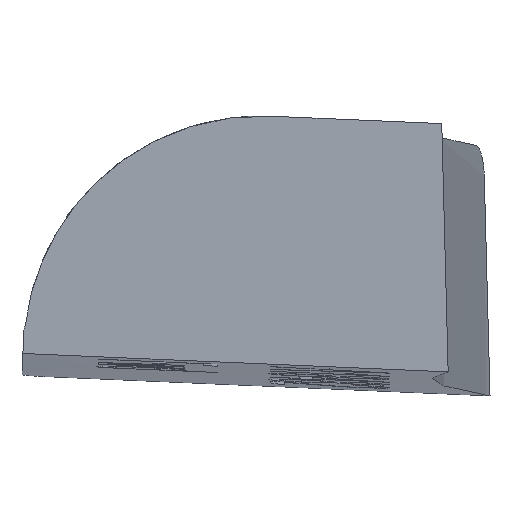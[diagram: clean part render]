
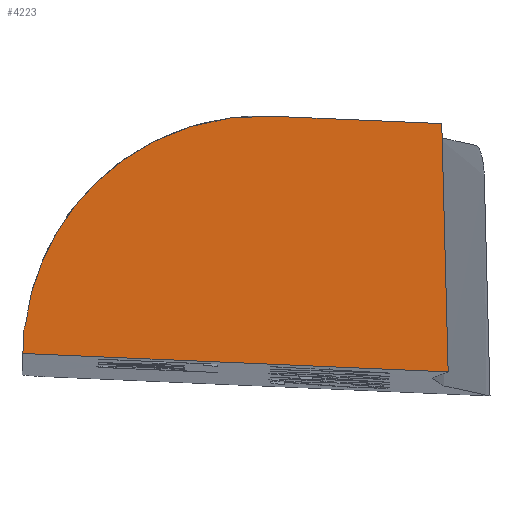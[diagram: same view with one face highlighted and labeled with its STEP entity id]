
A CAD part, front view. The second image highlights one B-rep face of the part: STEP entity #4223.
In plain terms, the highlighted planar face has unit normal (0, -1, 0).
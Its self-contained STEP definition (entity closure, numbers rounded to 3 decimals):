
#15=ELLIPSE('',#4317,38662.053,31.1);
#106=PLANE('',#4319);
#338=FACE_OUTER_BOUND('',#578,.T.);
#578=EDGE_LOOP('',(#3826,#3827,#3828,#3829,#3830,#3831,#3832,#3833));
#760=LINE('',#12759,#942);
#942=VECTOR('',#4659,10.);
#1339=B_SPLINE_CURVE_WITH_KNOTS('',3,(#11585,#11586,#11587,#11588,#11589,
#11590,#11591),.UNSPECIFIED.,.F.,.F.,(4,3,4),(-0.538,-0.485,
-0.415),.UNSPECIFIED.);
#1361=B_SPLINE_CURVE_WITH_KNOTS('',3,(#12014,#12015,#12016,#12017,#12018),
 .UNSPECIFIED.,.F.,.F.,(4,1,4),(0.,0.409,0.953),
 .UNSPECIFIED.);
#1362=B_SPLINE_CURVE_WITH_KNOTS('',3,(#12029,#12030,#12031,#12032),
 .UNSPECIFIED.,.F.,.F.,(4,4),(0.247,0.315),
 .UNSPECIFIED.);
#1398=B_SPLINE_CURVE_WITH_KNOTS('',3,(#12604,#12605,#12606,#12607,#12608,
#12609,#12610,#12611,#12612,#12613),.UNSPECIFIED.,.F.,.F.,(4,3,3,4),(0.,
0.004,0.006,0.009),
 .UNSPECIFIED.);
#1403=B_SPLINE_CURVE_WITH_KNOTS('',3,(#12721,#12722,#12723,#12724,#12725,
#12726,#12727,#12728,#12729,#12730,#12731,#12732,#12733),.UNSPECIFIED.,
 .F.,.F.,(4,3,3,3,4),(-0.474,-0.236,-0.198,
-0.197,-0.042),.UNSPECIFIED.);
#1411=B_SPLINE_CURVE_WITH_KNOTS('',3,(#12893,#12894,#12895,#12896,#12897,
#12898),.UNSPECIFIED.,.F.,.F.,(4,2,4),(-0.19,-0.098,
0.),.UNSPECIFIED.);
#1795=VERTEX_POINT('',#11570);
#1796=VERTEX_POINT('',#11584);
#1813=VERTEX_POINT('',#12008);
#1814=VERTEX_POINT('',#12013);
#1815=VERTEX_POINT('',#12028);
#1847=VERTEX_POINT('',#12599);
#1849=VERTEX_POINT('',#12720);
#1850=VERTEX_POINT('',#12779);
#2421=EDGE_CURVE('',#1795,#1796,#1339,.T.);
#2446=EDGE_CURVE('',#1813,#1814,#1361,.F.);
#2448=EDGE_CURVE('',#1815,#1814,#1362,.T.);
#2495=EDGE_CURVE('',#1847,#1813,#1398,.T.);
#2501=EDGE_CURVE('',#1796,#1849,#1403,.T.);
#2503=EDGE_CURVE('',#1849,#1847,#760,.F.);
#2506=EDGE_CURVE('',#1850,#1795,#15,.T.);
#2511=EDGE_CURVE('',#1850,#1815,#1411,.T.);
#3826=ORIENTED_EDGE('',*,*,#2511,.T.);
#3827=ORIENTED_EDGE('',*,*,#2448,.T.);
#3828=ORIENTED_EDGE('',*,*,#2446,.F.);
#3829=ORIENTED_EDGE('',*,*,#2495,.F.);
#3830=ORIENTED_EDGE('',*,*,#2503,.F.);
#3831=ORIENTED_EDGE('',*,*,#2501,.F.);
#3832=ORIENTED_EDGE('',*,*,#2421,.F.);
#3833=ORIENTED_EDGE('',*,*,#2506,.F.);
#4223=ADVANCED_FACE('',(#338),#106,.T.);
#4317=AXIS2_PLACEMENT_3D('',#12786,#4662,#4663);
#4319=AXIS2_PLACEMENT_3D('',#12899,#4666,#4667);
#4659=DIRECTION('',(-0.043,0.,-0.999));
#4662=DIRECTION('center_axis',(0.,-1.,0.));
#4663=DIRECTION('ref_axis',(-0.026,0.,1.));
#4666=DIRECTION('center_axis',(0.,-1.,0.));
#4667=DIRECTION('ref_axis',(0.043,0.,0.999));
#11570=CARTESIAN_POINT('',(-287.021,51.551,24.307));
#11584=CARTESIAN_POINT('',(-289.028,51.551,24.394));
#11585=CARTESIAN_POINT('Ctrl Pts',(-287.021,51.551,24.307));
#11586=CARTESIAN_POINT('Ctrl Pts',(-287.323,51.551,24.32));
#11587=CARTESIAN_POINT('Ctrl Pts',(-287.615,51.551,24.333));
#11588=CARTESIAN_POINT('Ctrl Pts',(-287.899,51.551,24.345));
#11589=CARTESIAN_POINT('Ctrl Pts',(-288.273,51.551,24.361));
#11590=CARTESIAN_POINT('Ctrl Pts',(-288.65,51.551,24.377));
#11591=CARTESIAN_POINT('Ctrl Pts',(-289.028,51.551,24.394));
#12008=CARTESIAN_POINT('',(-294.151,51.551,25.097));
#12013=CARTESIAN_POINT('',(-290.015,51.551,28.618));
#12014=CARTESIAN_POINT('Ctrl Pts',(-290.015,51.551,28.618));
#12015=CARTESIAN_POINT('Ctrl Pts',(-290.87,51.551,28.655));
#12016=CARTESIAN_POINT('Ctrl Pts',(-292.891,51.551,28.08));
#12017=CARTESIAN_POINT('Ctrl Pts',(-294.019,51.551,26.225));
#12018=CARTESIAN_POINT('Ctrl Pts',(-294.151,51.551,25.097));
#12028=CARTESIAN_POINT('',(-289.028,51.551,28.576));
#12029=CARTESIAN_POINT('Ctrl Pts',(-289.028,51.551,28.576));
#12030=CARTESIAN_POINT('Ctrl Pts',(-289.354,51.551,28.59));
#12031=CARTESIAN_POINT('Ctrl Pts',(-289.69,51.551,28.604));
#12032=CARTESIAN_POINT('Ctrl Pts',(-290.015,51.551,28.618));
#12599=CARTESIAN_POINT('',(-294.175,51.551,25.01));
#12604=CARTESIAN_POINT('Ctrl Pts',(-294.175,51.551,25.01));
#12605=CARTESIAN_POINT('Ctrl Pts',(-294.175,51.551,25.023));
#12606=CARTESIAN_POINT('Ctrl Pts',(-294.173,51.551,25.037));
#12607=CARTESIAN_POINT('Ctrl Pts',(-294.169,51.551,25.049));
#12608=CARTESIAN_POINT('Ctrl Pts',(-294.168,51.551,25.056));
#12609=CARTESIAN_POINT('Ctrl Pts',(-294.166,51.551,25.063));
#12610=CARTESIAN_POINT('Ctrl Pts',(-294.163,51.551,25.069));
#12611=CARTESIAN_POINT('Ctrl Pts',(-294.16,51.551,25.079));
#12612=CARTESIAN_POINT('Ctrl Pts',(-294.156,51.551,25.088));
#12613=CARTESIAN_POINT('Ctrl Pts',(-294.151,51.551,25.096));
#12720=CARTESIAN_POINT('',(-294.192,51.551,24.618));
#12721=CARTESIAN_POINT('Ctrl Pts',(-289.028,51.551,24.394));
#12722=CARTESIAN_POINT('Ctrl Pts',(-290.295,51.551,24.448));
#12723=CARTESIAN_POINT('Ctrl Pts',(-291.373,51.551,24.495));
#12724=CARTESIAN_POINT('Ctrl Pts',(-292.238,51.551,24.533));
#12725=CARTESIAN_POINT('Ctrl Pts',(-292.376,51.551,24.539));
#12726=CARTESIAN_POINT('Ctrl Pts',(-292.508,51.551,24.544));
#12727=CARTESIAN_POINT('Ctrl Pts',(-292.634,51.551,24.55));
#12728=CARTESIAN_POINT('Ctrl Pts',(-292.635,51.551,24.55));
#12729=CARTESIAN_POINT('Ctrl Pts',(-292.636,51.551,24.55));
#12730=CARTESIAN_POINT('Ctrl Pts',(-292.637,51.551,24.55));
#12731=CARTESIAN_POINT('Ctrl Pts',(-293.156,51.551,24.573));
#12732=CARTESIAN_POINT('Ctrl Pts',(-293.674,51.551,24.595));
#12733=CARTESIAN_POINT('Ctrl Pts',(-294.192,51.551,24.618));
#12759=CARTESIAN_POINT('',(-294.032,51.551,28.359));
#12779=CARTESIAN_POINT('',(-287.129,51.551,28.494));
#12786=CARTESIAN_POINT('Origin',(-119.977,51.551,-5246.053));
#12893=CARTESIAN_POINT('Ctrl Pts',(-287.129,51.551,28.494));
#12894=CARTESIAN_POINT('Ctrl Pts',(-287.437,51.551,28.507));
#12895=CARTESIAN_POINT('Ctrl Pts',(-287.746,51.551,28.52));
#12896=CARTESIAN_POINT('Ctrl Pts',(-288.379,51.551,28.548));
#12897=CARTESIAN_POINT('Ctrl Pts',(-288.704,51.551,28.562));
#12898=CARTESIAN_POINT('Ctrl Pts',(-289.028,51.551,28.576));
#12899=CARTESIAN_POINT('Origin',(-285.762,51.551,24.253));
